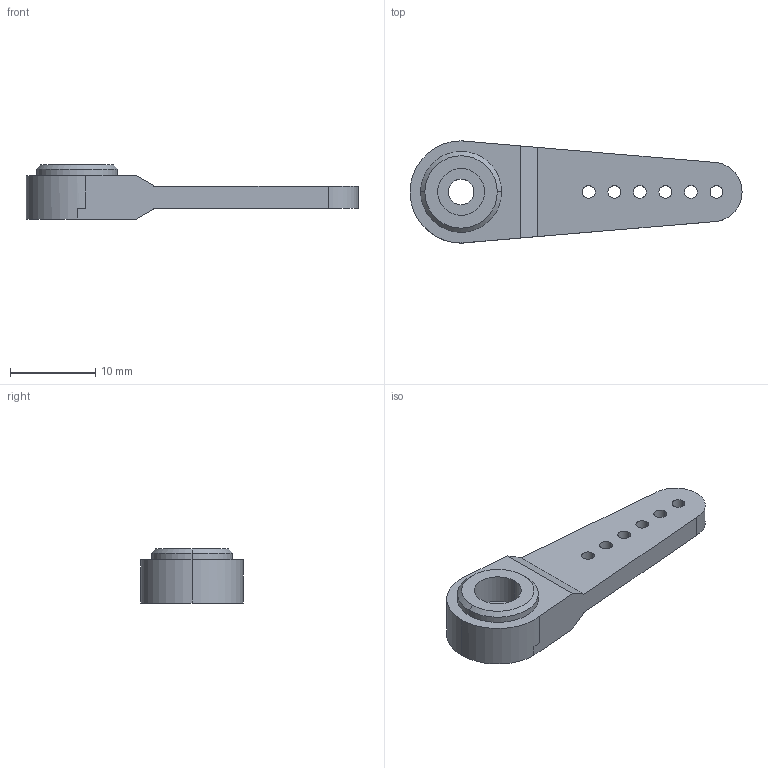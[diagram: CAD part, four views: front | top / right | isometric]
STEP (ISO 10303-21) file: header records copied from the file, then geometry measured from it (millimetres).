
FILE_DESCRIPTION (( 'STEP AP203' ), '1' );
FILE_NAME ('arm servo.STEP', '2018-06-10T18:49:43', ( '' ), ( '' ), 'SwSTEP 2.0', 'SolidWorks 2017', '' );
FILE_SCHEMA (( 'CONFIG_CONTROL_DESIGN' ));
Length unit declared in the file: millimetre
Products named in the file (1): arm servo
Bounding box: 39 x 12 x 6.35 mm (x, y, z)
Volume: 1181.1 mm3; surface area: 1225.8 mm2
Topology: 1 solids, 1 shells, 46 faces, 121 edges, 80 vertices
Faces by surface type: cylinder 23, plane 21, cone 2
Entity records: 1545 total; most frequent: DIRECTION 266, CARTESIAN_POINT 248, ORIENTED_EDGE 242, EDGE_CURVE 121, AXIS2_PLACEMENT_3D 98, VERTEX_POINT 80, LINE 70, VECTOR 70
